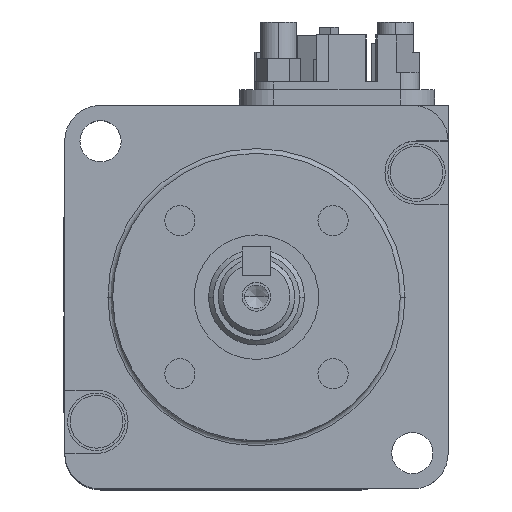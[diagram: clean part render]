
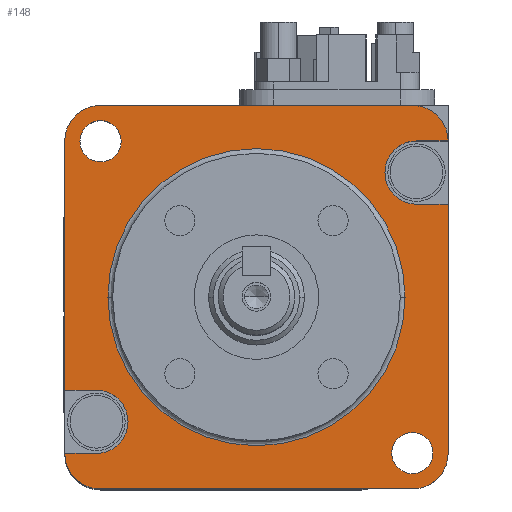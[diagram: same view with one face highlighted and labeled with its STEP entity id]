
A CAD part, top view. The second image highlights one B-rep face of the part: STEP entity #148.
In plain terms, the highlighted planar face has unit normal (0, 0, 1).
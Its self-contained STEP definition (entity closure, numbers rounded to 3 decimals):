
#148=ADVANCED_FACE('',(#839,#840,#841,#842),#838,.T.);
#838=PLANE('',#4250);
#839=FACE_OUTER_BOUND('',#4251,.T.);
#840=FACE_BOUND('',#4252,.T.);
#841=FACE_BOUND('',#4253,.T.);
#842=FACE_BOUND('',#4254,.T.);
#4247=CARTESIAN_POINT('',(-24.,-24.,0.));
#4248=DIRECTION('',(0.,0.,1.));
#4249=DIRECTION('',(1.,0.,0.));
#4250=AXIS2_PLACEMENT_3D('',#4247,#4248,#4249);
#4251=EDGE_LOOP('',(#6225,#6226,#6227,#6228,#6229,#6230,#6231,#6232,#6233,#6234,#6235,#6236,#6237,#6238));
#4252=EDGE_LOOP('',(#6239,#6240));
#4253=EDGE_LOOP('',(#6241,#6242));
#4254=EDGE_LOOP('',(#6243,#6244));
#6225=ORIENTED_EDGE('',*,*,#8027,.F.);
#6226=ORIENTED_EDGE('',*,*,#8028,.T.);
#6227=ORIENTED_EDGE('',*,*,#8021,.T.);
#6228=ORIENTED_EDGE('',*,*,#8029,.T.);
#6229=ORIENTED_EDGE('',*,*,#8017,.T.);
#6230=ORIENTED_EDGE('',*,*,#8030,.T.);
#6231=ORIENTED_EDGE('',*,*,#7859,.F.);
#6232=ORIENTED_EDGE('',*,*,#8031,.F.);
#6233=ORIENTED_EDGE('',*,*,#8032,.T.);
#6234=ORIENTED_EDGE('',*,*,#7999,.T.);
#6235=ORIENTED_EDGE('',*,*,#8033,.T.);
#6236=ORIENTED_EDGE('',*,*,#7991,.T.);
#6237=ORIENTED_EDGE('',*,*,#8034,.T.);
#6238=ORIENTED_EDGE('',*,*,#8035,.F.);
#6239=ORIENTED_EDGE('',*,*,#8036,.T.);
#6240=ORIENTED_EDGE('',*,*,#8037,.T.);
#6241=ORIENTED_EDGE('',*,*,#8038,.T.);
#6242=ORIENTED_EDGE('',*,*,#8039,.T.);
#6243=ORIENTED_EDGE('',*,*,#8040,.T.);
#6244=ORIENTED_EDGE('',*,*,#8041,.T.);
#7859=EDGE_CURVE('',#9125,#9132,#9133,.T.);
#7991=EDGE_CURVE('',#10046,#10039,#10047,.T.);
#7999=EDGE_CURVE('',#10102,#10095,#10103,.T.);
#8017=EDGE_CURVE('',#10228,#10221,#10229,.T.);
#8021=EDGE_CURVE('',#10255,#10256,#10257,.T.);
#8027=EDGE_CURVE('',#10297,#10298,#10299,.T.);
#8028=EDGE_CURVE('',#10297,#10255,#10305,.T.);
#8029=EDGE_CURVE('',#10256,#10228,#10311,.T.);
#8030=EDGE_CURVE('',#10221,#9132,#10317,.T.);
#8031=EDGE_CURVE('',#10323,#9125,#10324,.T.);
#8032=EDGE_CURVE('',#10323,#10102,#10330,.T.);
#8033=EDGE_CURVE('',#10095,#10046,#10336,.T.);
#8034=EDGE_CURVE('',#10039,#10342,#10343,.T.);
#8035=EDGE_CURVE('',#10298,#10342,#10349,.T.);
#8036=EDGE_CURVE('',#10355,#10356,#10357,.T.);
#8037=EDGE_CURVE('',#10356,#10355,#10363,.T.);
#8038=EDGE_CURVE('',#10369,#10370,#10371,.T.);
#8039=EDGE_CURVE('',#10370,#10369,#10377,.T.);
#8040=EDGE_CURVE('',#10383,#10384,#10385,.T.);
#8041=EDGE_CURVE('',#10384,#10383,#10391,.T.);
#9125=VERTEX_POINT('',#15137);
#9132=VERTEX_POINT('',#15141);
#9133=CIRCLE('',#15145,3.3);
#10039=VERTEX_POINT('',#15674);
#10046=VERTEX_POINT('',#15678);
#10047=LINE('',#15679,#15680);
#10095=VERTEX_POINT('',#15706);
#10102=VERTEX_POINT('',#15710);
#10103=LINE('',#15711,#15712);
#10221=VERTEX_POINT('',#15790);
#10228=VERTEX_POINT('',#15794);
#10229=LINE('',#15795,#15796);
#10255=VERTEX_POINT('',#15809);
#10256=VERTEX_POINT('',#15810);
#10257=LINE('',#15811,#15812);
#10297=VERTEX_POINT('',#15833);
#10298=VERTEX_POINT('',#15834);
#10299=LINE('',#15835,#15836);
#10305=CIRCLE('',#15841,3.7);
#10311=CIRCLE('',#15845,3.7);
#10317=LINE('',#15846,#15847);
#10323=VERTEX_POINT('',#15849);
#10324=LINE('',#15850,#15851);
#10330=CIRCLE('',#15856,3.7);
#10336=CIRCLE('',#15860,3.7);
#10342=VERTEX_POINT('',#15861);
#10343=LINE('',#15862,#15863);
#10349=CIRCLE('',#15868,3.3);
#10355=VERTEX_POINT('',#15869);
#10356=VERTEX_POINT('',#15870);
#10357=CIRCLE('',#15874,15.5);
#10363=CIRCLE('',#15878,15.5);
#10369=VERTEX_POINT('',#15879);
#10370=VERTEX_POINT('',#15880);
#10371=CIRCLE('',#15884,2.15);
#10377=CIRCLE('',#15888,2.15);
#10383=VERTEX_POINT('',#15889);
#10384=VERTEX_POINT('',#15890);
#10385=CIRCLE('',#15894,2.15);
#10391=CIRCLE('',#15898,2.15);
#15137=CARTESIAN_POINT('',(-16.7,-16.3,0.));
#15141=CARTESIAN_POINT('',(-16.7,-9.7,0.));
#15142=CARTESIAN_POINT('',(-16.7,-13.,0.));
#15143=DIRECTION('',(0.,0.,1.));
#15144=DIRECTION('',(-1.,0.,0.));
#15145=AXIS2_PLACEMENT_3D('',#15142,#15143,#15144);
#15674=CARTESIAN_POINT('',(20.,9.7,0.));
#15678=CARTESIAN_POINT('',(20.,-16.3,0.));
#15679=CARTESIAN_POINT('',(20.,-16.3,0.));
#15680=VECTOR('',#15681,26.);
#15681=DIRECTION('',(0.,1.,0.));
#15706=CARTESIAN_POINT('',(16.3,-20.,0.));
#15710=CARTESIAN_POINT('',(-16.3,-20.,0.));
#15711=CARTESIAN_POINT('',(-16.3,-20.,0.));
#15712=VECTOR('',#15713,32.6);
#15713=DIRECTION('',(1.,0.,0.));
#15790=CARTESIAN_POINT('',(-20.,-9.7,0.));
#15794=CARTESIAN_POINT('',(-20.,16.3,0.));
#15795=CARTESIAN_POINT('',(-20.,16.3,0.));
#15796=VECTOR('',#15797,26.);
#15797=DIRECTION('',(0.,-1.,0.));
#15809=CARTESIAN_POINT('',(16.3,20.,0.));
#15810=CARTESIAN_POINT('',(-16.3,20.,0.));
#15811=CARTESIAN_POINT('',(16.3,20.,0.));
#15812=VECTOR('',#15813,32.6);
#15813=DIRECTION('',(-1.,0.,0.));
#15833=CARTESIAN_POINT('',(20.,16.3,0.));
#15834=CARTESIAN_POINT('',(16.7,16.3,0.));
#15835=CARTESIAN_POINT('',(20.,16.3,0.));
#15836=VECTOR('',#15837,3.3);
#15837=DIRECTION('',(-1.,0.,0.));
#15838=CARTESIAN_POINT('',(16.3,16.3,0.));
#15839=DIRECTION('',(0.,0.,1.));
#15840=DIRECTION('',(-1.,0.,0.));
#15841=AXIS2_PLACEMENT_3D('',#15838,#15839,#15840);
#15842=CARTESIAN_POINT('',(-16.3,16.3,0.));
#15843=DIRECTION('',(0.,0.,1.));
#15844=DIRECTION('',(0.,-1.,0.));
#15845=AXIS2_PLACEMENT_3D('',#15842,#15843,#15844);
#15846=CARTESIAN_POINT('',(-20.,-9.7,0.));
#15847=VECTOR('',#15848,3.3);
#15848=DIRECTION('',(1.,0.,0.));
#15849=CARTESIAN_POINT('',(-20.,-16.3,0.));
#15850=CARTESIAN_POINT('',(-20.,-16.3,0.));
#15851=VECTOR('',#15852,3.3);
#15852=DIRECTION('',(1.,0.,0.));
#15853=CARTESIAN_POINT('',(-16.3,-16.3,0.));
#15854=DIRECTION('',(0.,0.,1.));
#15855=DIRECTION('',(1.,0.,0.));
#15856=AXIS2_PLACEMENT_3D('',#15853,#15854,#15855);
#15857=CARTESIAN_POINT('',(16.3,-16.3,0.));
#15858=DIRECTION('',(0.,0.,1.));
#15859=DIRECTION('',(0.,1.,0.));
#15860=AXIS2_PLACEMENT_3D('',#15857,#15858,#15859);
#15861=CARTESIAN_POINT('',(16.7,9.7,0.));
#15862=CARTESIAN_POINT('',(20.,9.7,0.));
#15863=VECTOR('',#15864,3.3);
#15864=DIRECTION('',(-1.,0.,0.));
#15865=CARTESIAN_POINT('',(16.7,13.,0.));
#15866=DIRECTION('',(0.,0.,1.));
#15867=DIRECTION('',(0.,1.,0.));
#15868=AXIS2_PLACEMENT_3D('',#15865,#15866,#15867);
#15869=CARTESIAN_POINT('',(15.5,0.,0.));
#15870=CARTESIAN_POINT('',(-15.5,0.,0.));
#15871=CARTESIAN_POINT('',(0.,0.,0.));
#15872=DIRECTION('',(0.,0.,-1.));
#15873=DIRECTION('',(1.,0.,0.));
#15874=AXIS2_PLACEMENT_3D('',#15871,#15872,#15873);
#15875=CARTESIAN_POINT('',(0.,0.,0.));
#15876=DIRECTION('',(0.,0.,-1.));
#15877=DIRECTION('',(1.,0.,0.));
#15878=AXIS2_PLACEMENT_3D('',#15875,#15876,#15877);
#15879=CARTESIAN_POINT('',(18.413,-16.263,0.));
#15880=CARTESIAN_POINT('',(14.113,-16.263,0.));
#15881=CARTESIAN_POINT('',(16.263,-16.263,0.));
#15882=DIRECTION('',(0.,0.,-1.));
#15883=DIRECTION('',(1.,0.,0.));
#15884=AXIS2_PLACEMENT_3D('',#15881,#15882,#15883);
#15885=CARTESIAN_POINT('',(16.263,-16.263,0.));
#15886=DIRECTION('',(0.,0.,-1.));
#15887=DIRECTION('',(1.,0.,0.));
#15888=AXIS2_PLACEMENT_3D('',#15885,#15886,#15887);
#15889=CARTESIAN_POINT('',(-14.113,16.263,0.));
#15890=CARTESIAN_POINT('',(-18.413,16.263,0.));
#15891=CARTESIAN_POINT('',(-16.263,16.263,0.));
#15892=DIRECTION('',(0.,0.,-1.));
#15893=DIRECTION('',(1.,0.,0.));
#15894=AXIS2_PLACEMENT_3D('',#15891,#15892,#15893);
#15895=CARTESIAN_POINT('',(-16.263,16.263,0.));
#15896=DIRECTION('',(0.,0.,-1.));
#15897=DIRECTION('',(1.,0.,0.));
#15898=AXIS2_PLACEMENT_3D('',#15895,#15896,#15897);
